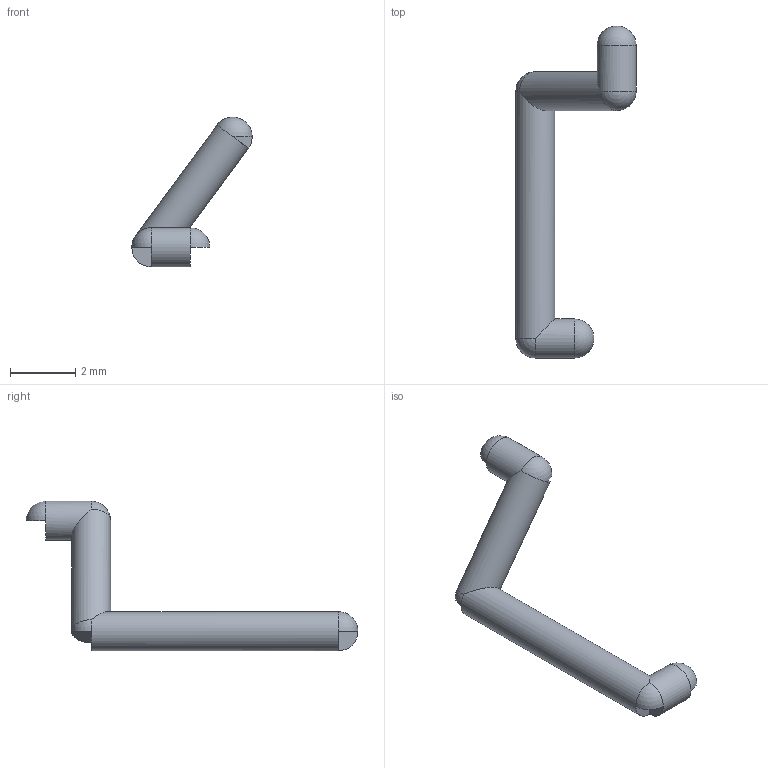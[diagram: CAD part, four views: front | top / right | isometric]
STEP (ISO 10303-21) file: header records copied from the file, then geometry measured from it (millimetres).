
FILE_DESCRIPTION(('Open CASCADE Model'),'2;1');
FILE_NAME('Open CASCADE Shape Model','2026-10-17T17:22:14',('Author'),( 'Open CASCADE'),'Open CASCADE STEP processor 7.9','Open CASCADE 7.9' ,'Unknown');
FILE_SCHEMA(('AUTOMOTIVE_DESIGN { 1 0 10303 214 1 1 1 1 }'));
Length unit declared in the file: millimetre
Products named in the file (1): Open CASCADE STEP translator 7.9 28
Bounding box: 3.7 x 10.2 x 4.6 mm (x, y, z)
Volume: 16.2 mm3; surface area: 58.8 mm2
Topology: 1 solids, 1 shells, 22 faces, 48 edges, 24 vertices
Faces by surface type: plane 13, sphere 5, cylinder 4
Full cylindrical faces by diameter (mm): 1.2 x4
Entity records: 1212 total; most frequent: CARTESIAN_POINT 306, DIRECTION 174, ORIENTED_EDGE 88, PCURVE 88, DEFINITIONAL_REPRESENTATION 88, LINE 56, VECTOR 56, AXIS2_PLACEMENT_3D 52
